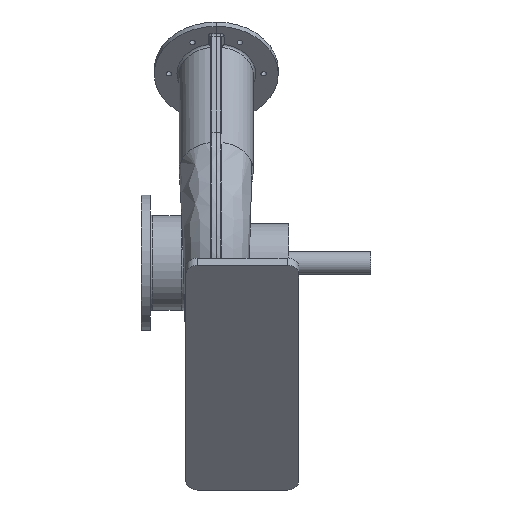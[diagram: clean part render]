
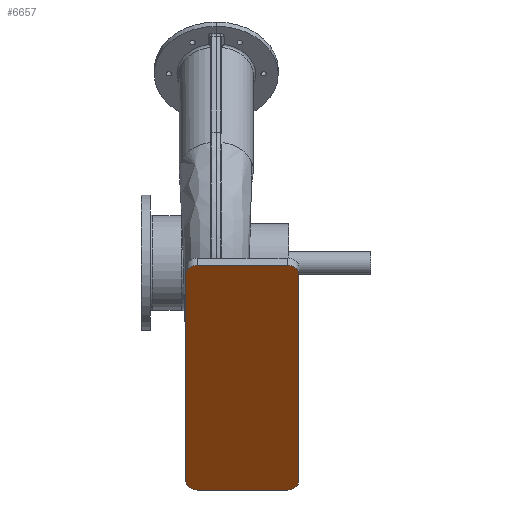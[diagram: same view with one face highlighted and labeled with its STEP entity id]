
A CAD part, left-side view. The second image highlights one B-rep face of the part: STEP entity #6657.
In plain terms, the highlighted planar face has unit normal (-0.766, 0, -0.643) as drawn and (0, -1, 0) by its records, which use the part's own axes.
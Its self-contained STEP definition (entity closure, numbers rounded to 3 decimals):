
#418=PLANE('',#7616);
#717=LINE('',#26928,#1035);
#720=LINE('',#26936,#1038);
#723=LINE('',#26945,#1041);
#726=LINE('',#26951,#1044);
#1035=VECTOR('',#9326,10.);
#1038=VECTOR('',#9335,10.);
#1041=VECTOR('',#9344,10.);
#1044=VECTOR('',#9353,10.);
#1569=FACE_OUTER_BOUND('',#2088,.T.);
#2088=EDGE_LOOP('',(#6243,#6244,#6245,#6246,#6247,#6248,#6249,#6250));
#2724=CIRCLE('',#7590,10.);
#2725=CIRCLE('',#7593,10.);
#2726=CIRCLE('',#7596,10.);
#2727=CIRCLE('',#7599,10.);
#3355=VERTEX_POINT('',#26919);
#3356=VERTEX_POINT('',#26920);
#3357=VERTEX_POINT('',#26926);
#3358=VERTEX_POINT('',#26930);
#3359=VERTEX_POINT('',#26934);
#3360=VERTEX_POINT('',#26938);
#3361=VERTEX_POINT('',#26940);
#3362=VERTEX_POINT('',#26944);
#4302=EDGE_CURVE('',#3355,#3356,#2724,.T.);
#4307=EDGE_CURVE('',#3355,#3357,#717,.T.);
#4309=EDGE_CURVE('',#3358,#3357,#2725,.T.);
#4311=EDGE_CURVE('',#3359,#3358,#720,.T.);
#4313=EDGE_CURVE('',#3360,#3361,#2726,.T.);
#4315=EDGE_CURVE('',#3361,#3362,#723,.T.);
#4318=EDGE_CURVE('',#3362,#3359,#2727,.T.);
#4319=EDGE_CURVE('',#3356,#3360,#726,.T.);
#6243=ORIENTED_EDGE('',*,*,#4302,.F.);
#6244=ORIENTED_EDGE('',*,*,#4307,.T.);
#6245=ORIENTED_EDGE('',*,*,#4309,.F.);
#6246=ORIENTED_EDGE('',*,*,#4311,.F.);
#6247=ORIENTED_EDGE('',*,*,#4318,.F.);
#6248=ORIENTED_EDGE('',*,*,#4315,.F.);
#6249=ORIENTED_EDGE('',*,*,#4313,.F.);
#6250=ORIENTED_EDGE('',*,*,#4319,.F.);
#6657=ADVANCED_FACE('',(#1569),#418,.T.);
#7590=AXIS2_PLACEMENT_3D('',#26921,#9318,#9319);
#7593=AXIS2_PLACEMENT_3D('',#26932,#9330,#9331);
#7596=AXIS2_PLACEMENT_3D('',#26941,#9339,#9340);
#7599=AXIS2_PLACEMENT_3D('',#26949,#9349,#9350);
#7616=AXIS2_PLACEMENT_3D('',#26986,#9395,#9396);
#9318=DIRECTION('center_axis',(0.,1.,0.));
#9319=DIRECTION('ref_axis',(0.707,0.,-0.707));
#9326=DIRECTION('',(0.,0.,1.));
#9330=DIRECTION('center_axis',(0.,1.,0.));
#9331=DIRECTION('ref_axis',(0.707,0.,0.707));
#9335=DIRECTION('',(1.,0.,0.));
#9339=DIRECTION('center_axis',(0.,1.,0.));
#9340=DIRECTION('ref_axis',(-0.707,0.,-0.707));
#9344=DIRECTION('',(0.,0.,1.));
#9349=DIRECTION('center_axis',(0.,1.,0.));
#9350=DIRECTION('ref_axis',(-0.707,0.,0.707));
#9353=DIRECTION('',(-1.,0.,0.));
#9395=DIRECTION('center_axis',(0.,-1.,0.));
#9396=DIRECTION('ref_axis',(1.,0.,0.));
#26919=CARTESIAN_POINT('',(130.,-100.,-50.));
#26920=CARTESIAN_POINT('',(120.,-100.,-60.));
#26921=CARTESIAN_POINT('Origin',(120.,-100.,-50.));
#26926=CARTESIAN_POINT('',(130.,-100.,30.));
#26928=CARTESIAN_POINT('',(130.,-100.,0.));
#26930=CARTESIAN_POINT('',(120.,-100.,40.));
#26932=CARTESIAN_POINT('Origin',(120.,-100.,30.));
#26934=CARTESIAN_POINT('',(-120.,-100.,40.));
#26936=CARTESIAN_POINT('',(-130.,-100.,40.));
#26938=CARTESIAN_POINT('',(-120.,-100.,-60.));
#26940=CARTESIAN_POINT('',(-130.,-100.,-50.));
#26941=CARTESIAN_POINT('Origin',(-120.,-100.,-50.));
#26944=CARTESIAN_POINT('',(-130.,-100.,30.));
#26945=CARTESIAN_POINT('',(-130.,-100.,0.));
#26949=CARTESIAN_POINT('Origin',(-120.,-100.,30.));
#26951=CARTESIAN_POINT('',(-130.,-100.,-60.));
#26986=CARTESIAN_POINT('Origin',(-130.,-100.,0.));
